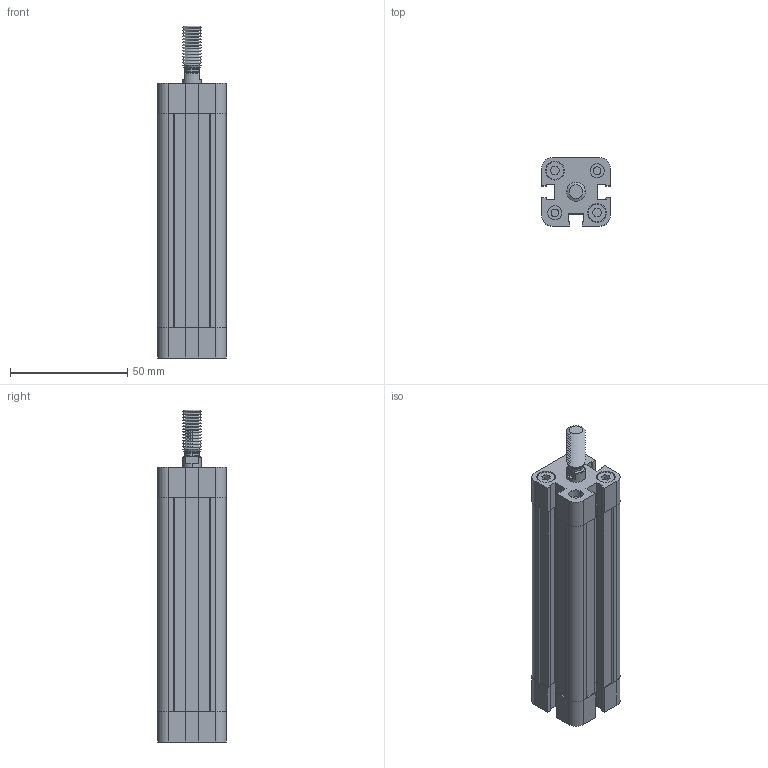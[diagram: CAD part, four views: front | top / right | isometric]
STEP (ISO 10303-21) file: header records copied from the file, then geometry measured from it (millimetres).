
FILE_DESCRIPTION (( 'STEP AP214' ), '1' );
FILE_NAME ('NSKI016.0080 M.STEP', '2011-05-31T13:01:48', ( 'utente' ), ( '' ), 'SwSTEP 2.0', 'SolidWorks 2009', '' );
FILE_SCHEMA (( 'AUTOMOTIVE_DESIGN' ));
Length unit declared in the file: millimetre
Products named in the file (5): FRONT END CAP-NSKI 16; PISTON ROD-NSKI 016  M_STROKE 0080; REAR END CAP-NSKI 16; BARREL-NSKI16_STROKE 0080; NSKI016.0080 M
Assembly tree (4 placements, depth 2):
  NSKI016.0080 M
    FRONT END CAP-NSKI 16
    BARREL-NSKI16_STROKE 0080
    REAR END CAP-NSKI 16
    PISTON ROD-NSKI 016  M_STROKE 0080
Bounding box: 29.2 x 29.2 x 141.5 mm (x, y, z)
Volume: 69510.3 mm3; surface area: 35318.3 mm2
Topology: 5 solids, 5 shells, 570 faces, 1425 edges, 890 vertices
Faces by surface type: plane 285, cylinder 169, cone 108, torus 4, bspline 4
Entity records: 19250 total; most frequent: CARTESIAN_POINT 3204, DIRECTION 2963, ORIENTED_EDGE 2842, EDGE_CURVE 1421, VECTOR 1009, LINE 1009, AXIS2_PLACEMENT_3D 977, VERTEX_POINT 890
